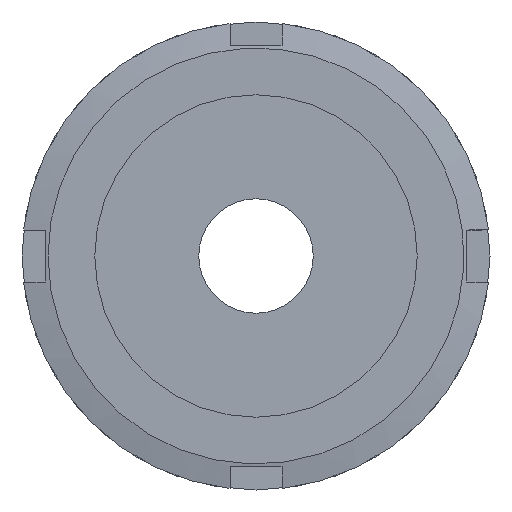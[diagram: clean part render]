
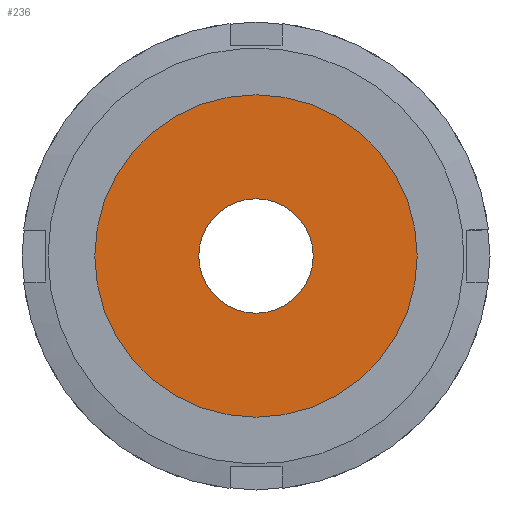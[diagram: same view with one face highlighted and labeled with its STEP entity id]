
A CAD part, left-side view. The second image highlights one B-rep face of the part: STEP entity #236.
In plain terms, the highlighted planar face has unit normal (-1, 0, 0) as drawn and (0, -1, 0) by its records, which use the part's own axes.
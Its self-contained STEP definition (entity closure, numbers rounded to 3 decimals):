
#236 = ADVANCED_FACE( '', ( #342, #343 ), #344, .T. );
#342 = FACE_OUTER_BOUND( '', #497, .T. );
#343 = FACE_BOUND( '', #498, .T. );
#344 = PLANE( '', #499 );
#497 = EDGE_LOOP( '', ( #795 ) );
#498 = EDGE_LOOP( '', ( #796 ) );
#499 = AXIS2_PLACEMENT_3D( '', #797, #798, #799 );
#795 = ORIENTED_EDGE( '', *, *, #1079, .T. );
#796 = ORIENTED_EDGE( '', *, *, #1080, .F. );
#797 = CARTESIAN_POINT( '', ( 5.5, 0., 0. ) );
#798 = DIRECTION( '', ( 0., -1., 0. ) );
#799 = DIRECTION( '', ( 0., 0., -1. ) );
#1079 = EDGE_CURVE( '', #1252, #1252, #1253, .T. );
#1080 = EDGE_CURVE( '', #1254, #1254, #1255, .T. );
#1252 = VERTEX_POINT( '', #1616 );
#1253 = CIRCLE( '', #1617, 15.5 );
#1254 = VERTEX_POINT( '', #1618 );
#1255 = CIRCLE( '', #1619, 5.5 );
#1616 = CARTESIAN_POINT( '', ( 0., 0., -15.5 ) );
#1617 = AXIS2_PLACEMENT_3D( '', #1863, #1864, #1865 );
#1618 = CARTESIAN_POINT( '', ( 0., 0., -5.5 ) );
#1619 = AXIS2_PLACEMENT_3D( '', #1866, #1867, #1868 );
#1863 = CARTESIAN_POINT( '', ( 0., 0., 0. ) );
#1864 = DIRECTION( '', ( 0., -1., 0. ) );
#1865 = DIRECTION( '', ( 0., 0., -1. ) );
#1866 = CARTESIAN_POINT( '', ( 0., 0., 0. ) );
#1867 = DIRECTION( '', ( 0., -1., 0. ) );
#1868 = DIRECTION( '', ( 0., 0., -1. ) );
